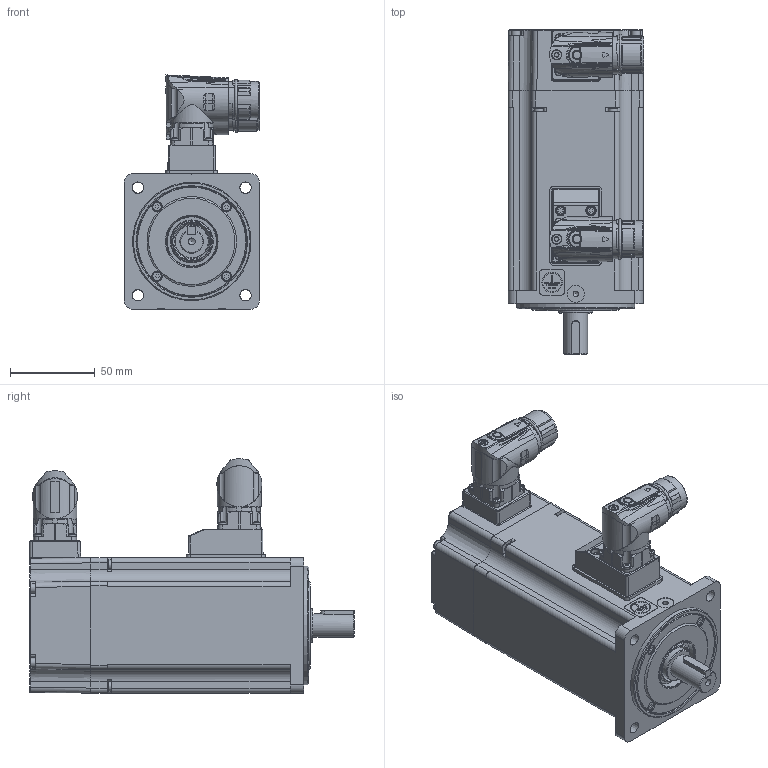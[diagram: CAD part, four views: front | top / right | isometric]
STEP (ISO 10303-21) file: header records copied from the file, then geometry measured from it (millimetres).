
FILE_DESCRIPTION( ( 'Unknown' ), '1' );
FILE_NAME( 'U:/05_Progetto TCE/010-TCE motor drawings/TCE80/vuoti/TCE80 3A XX 3 A1 1 C2.stp', 'Unknown', ( 'Unknown' ), ( 'Unknown' ), 'PSStep 17.0.49', 'Unknown', ' ' );
FILE_SCHEMA( ( 'AUTOMOTIVE_DESIGN { 1 0 10303 214 1 1 1 1 }' ) );
Length unit declared in the file: millimetre
Products named in the file (19): 003103001504
Bounding box: 80.3 x 192 x 138.5 mm (x, y, z)
Volume: 507205.7 mm3; surface area: 222191 mm2
Topology: 19 solids, 100 shells, 3064 faces, 7613 edges, 4894 vertices
Faces by surface type: plane 1465, cylinder 779, cone 281, bspline 218, torus 177, sphere 106, extrusion 38
Full cylindrical faces by diameter (mm): 1 x21, 1.2 x17, 1.4 x4, 1.5 x2, 2 x12, 2.013 x3, 2.2 x2, 2.459 x45, 2.5 x11, 2.65 x4, 2.7 x2, 2.8 x4, 3 x34, 3.2 x1, 3.242 x4, 3.4 x6, 3.5 x19, 4.134 x2, 4.4 x8, 4.5 x2, 4.7 x3, 5 x1, 5.5 x22, 5.8 x1, 5.9 x2, 6 x7, 6.8 x1, 8 x3, 10 x1, 11 x1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
Entity records: 121930 total; most frequent: CARTESIAN_POINT 33401, DIRECTION 13858, ORIENTED_EDGE 13246, EDGE_CURVE 6623, AXIS2_PLACEMENT_3D 5248, VERTEX_POINT 4651, EDGE_LOOP 4029, FACE_OUTER_BOUND 3516
